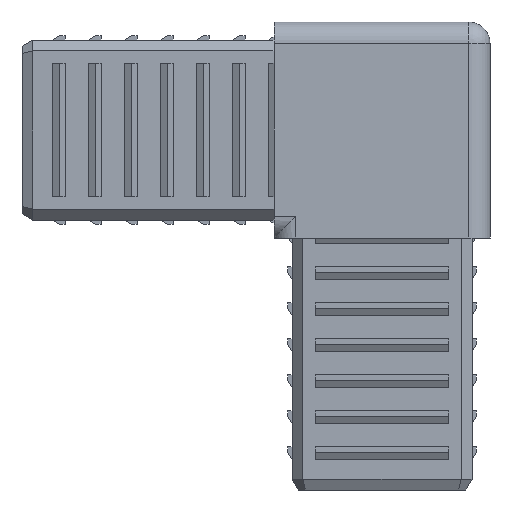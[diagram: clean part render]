
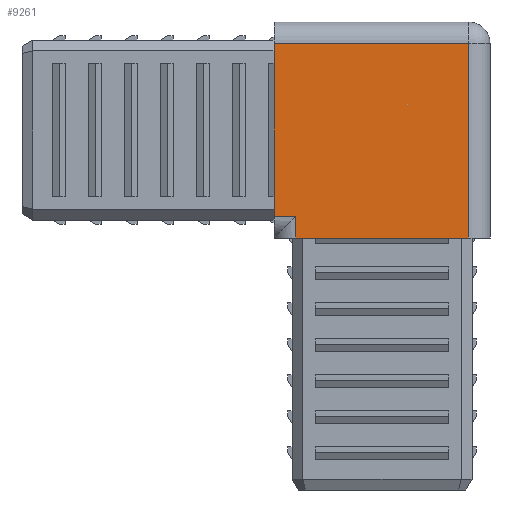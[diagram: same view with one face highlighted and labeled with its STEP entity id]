
A CAD part, left-side view. The second image highlights one B-rep face of the part: STEP entity #9261.
In plain terms, the highlighted planar face has unit normal (-1, 0, 0).
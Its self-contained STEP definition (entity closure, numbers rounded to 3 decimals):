
#2 = FACE_OUTER_BOUND ( 'NONE', #9074, .T. ) ;
#253 = ORIENTED_EDGE ( 'NONE', *, *, #4136, .F. ) ;
#533 = ORIENTED_EDGE ( 'NONE', *, *, #5623, .T. ) ;
#805 = LINE ( 'NONE', #5308, #5673 ) ;
#903 = DIRECTION ( 'NONE',  ( 0., -1., 0. ) ) ;
#1650 = CARTESIAN_POINT ( 'NONE',  ( -15., 15., 12. ) ) ;
#1915 = EDGE_CURVE ( 'NONE', #6547, #4141, #5904, .T. ) ;
#1952 = LINE ( 'NONE', #6500, #6465 ) ;
#2146 = DIRECTION ( 'NONE',  ( 0., 1., 0. ) ) ;
#2362 = VERTEX_POINT ( 'NONE', #3184 ) ;
#2795 = CARTESIAN_POINT ( 'NONE',  ( -15., 12., -12. ) ) ;
#2930 = ORIENTED_EDGE ( 'NONE', *, *, #8678, .T. ) ;
#3184 = CARTESIAN_POINT ( 'NONE',  ( -15., 15., -12. ) ) ;
#3301 = CARTESIAN_POINT ( 'NONE',  ( -15., -12., 12. ) ) ;
#3308 = VECTOR ( 'NONE', #3996, 1000. ) ;
#3407 = VECTOR ( 'NONE', #9687, 1000. ) ;
#3537 = DIRECTION ( 'NONE',  ( 0., 0., -1. ) ) ;
#3870 = LINE ( 'NONE', #6026, #4362 ) ;
#3996 = DIRECTION ( 'NONE',  ( 0., 0., 1. ) ) ;
#4136 = EDGE_CURVE ( 'NONE', #4141, #2362, #9629, .T. ) ;
#4141 = VERTEX_POINT ( 'NONE', #2795 ) ;
#4362 = VECTOR ( 'NONE', #5252, 1000. ) ;
#4432 = AXIS2_PLACEMENT_3D ( 'NONE', #5946, #7616, #3537 ) ;
#4693 = CARTESIAN_POINT ( 'NONE',  ( -15., -12., 15. ) ) ;
#4873 = VECTOR ( 'NONE', #7555, 1000. ) ;
#5191 = ORIENTED_EDGE ( 'NONE', *, *, #9291, .T. ) ;
#5252 = DIRECTION ( 'NONE',  ( 0., 0., -1. ) ) ;
#5308 = CARTESIAN_POINT ( 'NONE',  ( -15., -15., 12. ) ) ;
#5623 = EDGE_CURVE ( 'NONE', #6547, #7959, #1952, .T. ) ;
#5673 = VECTOR ( 'NONE', #2146, 1000. ) ;
#5700 = VERTEX_POINT ( 'NONE', #3301 ) ;
#5904 = LINE ( 'NONE', #8825, #3407 ) ;
#5946 = CARTESIAN_POINT ( 'NONE',  ( -15., -15., 15. ) ) ;
#6026 = CARTESIAN_POINT ( 'NONE',  ( -15., 15., 15. ) ) ;
#6465 = VECTOR ( 'NONE', #903, 1000. ) ;
#6500 = CARTESIAN_POINT ( 'NONE',  ( -15., -15., -15. ) ) ;
#6547 = VERTEX_POINT ( 'NONE', #10034 ) ;
#6732 = PLANE ( 'NONE',  #4432 ) ;
#6766 = ORIENTED_EDGE ( 'NONE', *, *, #1915, .F. ) ;
#6927 = CARTESIAN_POINT ( 'NONE',  ( -15., -12., -15. ) ) ;
#7493 = VERTEX_POINT ( 'NONE', #1650 ) ;
#7555 = DIRECTION ( 'NONE',  ( 0., 1., 0. ) ) ;
#7616 = DIRECTION ( 'NONE',  ( 1., 0., 0. ) ) ;
#7959 = VERTEX_POINT ( 'NONE', #6927 ) ;
#8422 = CARTESIAN_POINT ( 'NONE',  ( -15., 12., -12. ) ) ;
#8678 = EDGE_CURVE ( 'NONE', #7959, #5700, #9807, .T. ) ;
#8825 = CARTESIAN_POINT ( 'NONE',  ( -15., 12., -12. ) ) ;
#9074 = EDGE_LOOP ( 'NONE', ( #5191, #253, #6766, #533, #2930, #9994 ) ) ;
#9261 = ADVANCED_FACE ( 'NONE', ( #2 ), #6732, .F. ) ;
#9291 = EDGE_CURVE ( 'NONE', #7493, #2362, #3870, .T. ) ;
#9629 = LINE ( 'NONE', #8422, #4873 ) ;
#9687 = DIRECTION ( 'NONE',  ( 0., 0., 1. ) ) ;
#9807 = LINE ( 'NONE', #4693, #3308 ) ;
#9994 = ORIENTED_EDGE ( 'NONE', *, *, #10342, .T. ) ;
#10034 = CARTESIAN_POINT ( 'NONE',  ( -15., 12., -15. ) ) ;
#10342 = EDGE_CURVE ( 'NONE', #5700, #7493, #805, .T. ) ;
